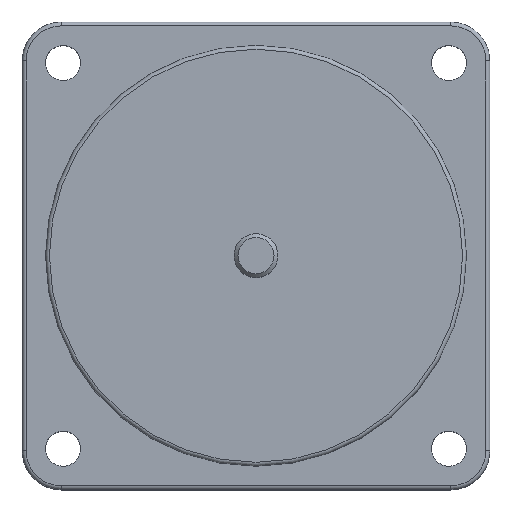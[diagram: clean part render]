
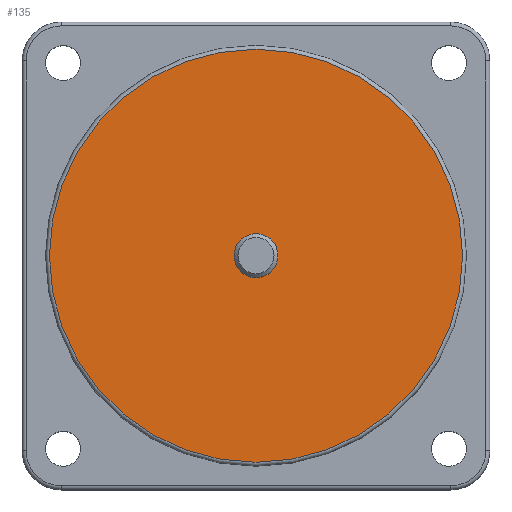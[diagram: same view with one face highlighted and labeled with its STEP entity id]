
A CAD part, top view. The second image highlights one B-rep face of the part: STEP entity #135.
In plain terms, the highlighted planar face has unit normal (0, 0, 1).
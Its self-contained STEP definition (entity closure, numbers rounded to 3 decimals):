
#73=CARTESIAN_POINT('',(26.5,0.,28.));
#74=VERTEX_POINT('',#73);
#75=CARTESIAN_POINT('',(0.0,0.0,28.));
#76=DIRECTION('',(0.0,0.0,-1.0));
#77=DIRECTION('',(-1.0,0.0,0.0));
#78=AXIS2_PLACEMENT_3D('',#75,#76,#77);
#79=CIRCLE('',#78,26.5);
#80=EDGE_CURVE('',#74,#74,#79,.T.);
#116=CARTESIAN_POINT('',(0.0,0.0,28.));
#117=DIRECTION('',(0.0,0.0,-1.0));
#118=DIRECTION('',(-1.0,0.0,0.0));
#119=AXIS2_PLACEMENT_3D('',#116,#117,#118);
#120=PLANE('',#119);
#121=ORIENTED_EDGE('',*,*,#80,.F.);
#122=EDGE_LOOP('',(#121));
#123=FACE_OUTER_BOUND('',#122,.T.);
#124=CARTESIAN_POINT('',(2.82,0.,28.));
#125=VERTEX_POINT('',#124);
#126=CARTESIAN_POINT('',(0.0,0.0,28.));
#127=DIRECTION('',(0.0,0.0,-1.0));
#128=DIRECTION('',(-1.0,0.0,0.0));
#129=AXIS2_PLACEMENT_3D('',#126,#127,#128);
#130=CIRCLE('',#129,2.82);
#131=EDGE_CURVE('',#125,#125,#130,.T.);
#132=ORIENTED_EDGE('',*,*,#131,.T.);
#133=EDGE_LOOP('',(#132));
#134=FACE_BOUND('',#133,.T.);
#135=ADVANCED_FACE('',(#123,#134),#120,.F.);
